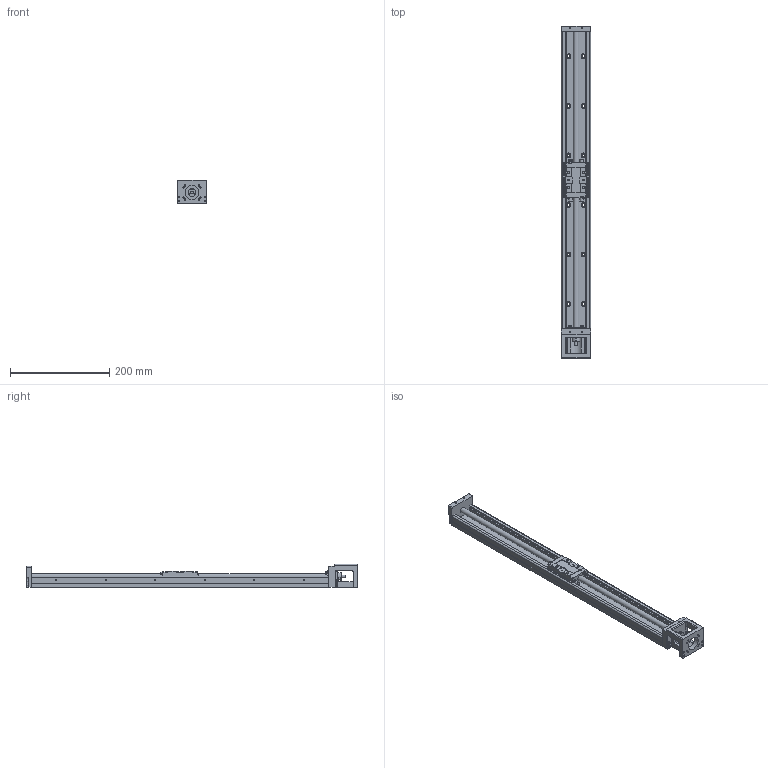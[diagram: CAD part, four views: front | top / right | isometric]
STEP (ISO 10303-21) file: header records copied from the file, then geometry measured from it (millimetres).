
FILE_DESCRIPTION(/* description */ (''),/* implementation_level */ '2;1');
FILE_NAME(/* name */ 'FKL60E510 05(10)C7.stp',/* time_stamp */ '2019-01-30T11:15:40+08:00',/* author */ (''),/* organization */ (''),/* preprocessor_version */ 'ST-DEVELOPER v16',/* originating_system */ 'SIEMENS PLM Software NX 10.0',/* authorisation */ '');
FILE_SCHEMA (('AUTOMOTIVE_DESIGN { 1 0 10303 214 3 1 1 1 }'));
Length unit declared in the file: millimetre
Products named in the file (3): 滑台.KK60.90-A1; 轨道.KK60-600; FKL60E510 05(10)C7
Assembly tree (2 placements, depth 2):
  FKL60E510 05(10)C7
    轨道.KK60-600
    滑台.KK60.90-A1
Bounding box: 60 x 670 x 47 mm (x, y, z)
Volume: 653980.7 mm3; surface area: 185873.2 mm2
Topology: 2 solids, 2 shells, 526 faces, 1343 edges, 874 vertices
Faces by surface type: plane 321, cylinder 161, torus 22, cone 13, sphere 9
Full cylindrical faces by diameter (mm): 2.05 x12, 2.5 x14, 3.3 x1, 3.5 x4, 4.2 x4, 5.5 x20, 6 x5, 7 x4, 9.5 x12, 11 x1, 12 x2, 28 x1
Entity records: 15270 total; most frequent: CARTESIAN_POINT 2618, DIRECTION 2590, ORIENTED_EDGE 2352, EDGE_CURVE 1176, AXIS2_PLACEMENT_3D 901, VERTEX_POINT 813, LINE 788, VECTOR 788
